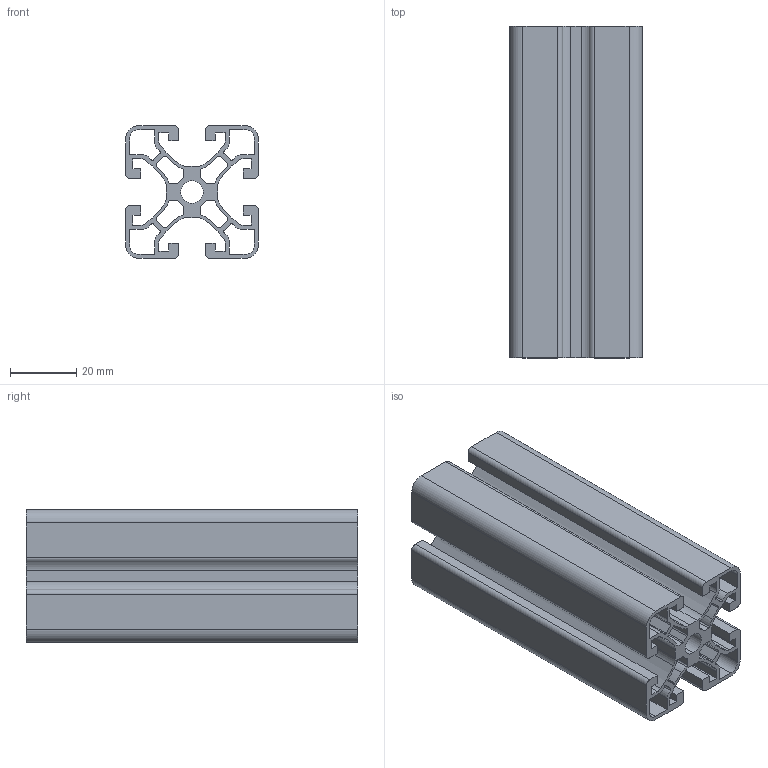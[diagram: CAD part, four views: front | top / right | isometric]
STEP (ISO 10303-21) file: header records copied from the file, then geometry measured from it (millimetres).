
FILE_DESCRIPTION (( 'STEP AP203' ), '1' );
FILE_NAME ('0108P4040E.STEP', '2024-02-29T09:11:39', ( 'Windows-Benutzer' ), ( '' ), 'SwSTEP 2.0', 'SolidWorks 2023', '' );
FILE_SCHEMA (( 'CONFIG_CONTROL_DESIGN' ));
Length unit declared in the file: millimetre
Products named in the file (1): 0108P4040E
Bounding box: 40 x 100 x 40 mm (x, y, z)
Volume: 49594.7 mm3; surface area: 60804.6 mm2
Topology: 1 solids, 1 shells, 192 faces, 570 edges, 380 vertices
Faces by surface type: cylinder 102, plane 90
Entity records: 6611 total; most frequent: DIRECTION 1160, CARTESIAN_POINT 1143, ORIENTED_EDGE 1140, EDGE_CURVE 570, AXIS2_PLACEMENT_3D 397, VERTEX_POINT 380, LINE 366, VECTOR 366
